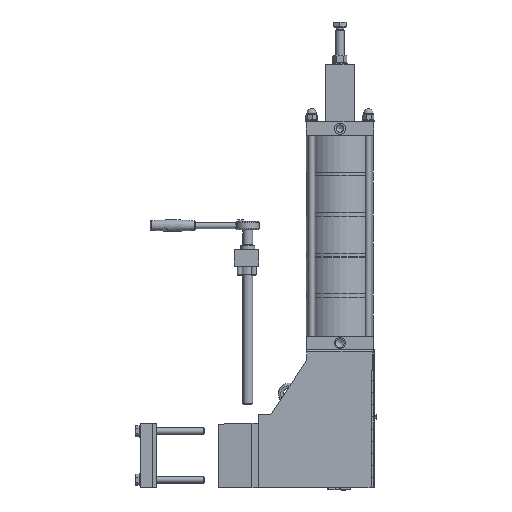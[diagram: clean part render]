
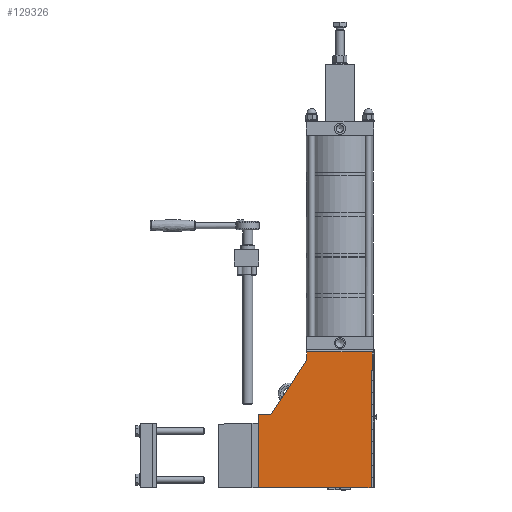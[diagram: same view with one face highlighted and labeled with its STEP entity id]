
A CAD part, left-side view. The second image highlights one B-rep face of the part: STEP entity #129326.
In plain terms, the highlighted planar face has unit normal (-1, 0, 0).
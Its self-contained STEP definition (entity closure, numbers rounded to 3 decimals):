
#18690=LINE('',#221501,#29620);
#18712=LINE('',#221550,#29642);
#18718=LINE('',#221560,#29648);
#18736=LINE('',#221613,#29666);
#18785=LINE('',#221801,#29715);
#18788=LINE('',#221807,#29718);
#18802=LINE('',#221843,#29732);
#18826=LINE('',#221937,#29756);
#18827=LINE('',#221939,#29757);
#29620=VECTOR('',#153052,10.);
#29642=VECTOR('',#153084,10.);
#29648=VECTOR('',#153092,10.);
#29666=VECTOR('',#153144,10.);
#29715=VECTOR('',#153371,10.);
#29718=VECTOR('',#153376,10.);
#29732=VECTOR('',#153410,10.);
#29756=VECTOR('',#153524,10.);
#29757=VECTOR('',#153527,10.);
#37481=FACE_OUTER_BOUND('',#44781,.T.);
#44781=EDGE_LOOP('',(#108372,#108373,#108374,#108375,#108376,#108377,#108378,
#108379,#108380));
#57541=VERTEX_POINT('',#221498);
#57542=VERTEX_POINT('',#221500);
#57563=VERTEX_POINT('',#221547);
#57564=VERTEX_POINT('',#221549);
#57567=VERTEX_POINT('',#221559);
#57585=VERTEX_POINT('',#221610);
#57635=VERTEX_POINT('',#221799);
#57637=VERTEX_POINT('',#221805);
#57674=VERTEX_POINT('',#221935);
#74670=EDGE_CURVE('',#57541,#57542,#18690,.T.);
#74696=EDGE_CURVE('',#57563,#57564,#18712,.T.);
#74702=EDGE_CURVE('',#57564,#57567,#18718,.T.);
#74730=EDGE_CURVE('',#57567,#57585,#18736,.T.);
#74818=EDGE_CURVE('',#57541,#57635,#18785,.T.);
#74821=EDGE_CURVE('',#57635,#57637,#18788,.T.);
#74839=EDGE_CURVE('',#57542,#57563,#18802,.T.);
#74881=EDGE_CURVE('',#57585,#57674,#18826,.T.);
#74882=EDGE_CURVE('',#57674,#57637,#18827,.T.);
#108372=ORIENTED_EDGE('',*,*,#74882,.F.);
#108373=ORIENTED_EDGE('',*,*,#74881,.F.);
#108374=ORIENTED_EDGE('',*,*,#74730,.F.);
#108375=ORIENTED_EDGE('',*,*,#74702,.F.);
#108376=ORIENTED_EDGE('',*,*,#74696,.F.);
#108377=ORIENTED_EDGE('',*,*,#74839,.F.);
#108378=ORIENTED_EDGE('',*,*,#74670,.F.);
#108379=ORIENTED_EDGE('',*,*,#74818,.T.);
#108380=ORIENTED_EDGE('',*,*,#74821,.T.);
#116529=PLANE('',#134522);
#129326=ADVANCED_FACE('',(#37481),#116529,.F.);
#134522=AXIS2_PLACEMENT_3D('',#221938,#153525,#153526);
#153052=DIRECTION('',(0.,1.,0.));
#153084=DIRECTION('',(0.,-1.,0.));
#153092=DIRECTION('',(0.,-0.545,0.839));
#153144=DIRECTION('',(0.,0.,1.));
#153371=DIRECTION('',(0.,0.,1.));
#153376=DIRECTION('',(0.,-1.,0.));
#153410=DIRECTION('',(0.,0.,1.));
#153524=DIRECTION('',(0.,-1.,0.));
#153525=DIRECTION('center_axis',(1.,0.,0.));
#153526=DIRECTION('ref_axis',(0.,1.,0.));
#153527=DIRECTION('',(0.,0.,-1.));
#221498=CARTESIAN_POINT('',(-89.,-276.5,0.));
#221500=CARTESIAN_POINT('',(-89.,0.,0.));
#221501=CARTESIAN_POINT('',(-89.,0.,0.));
#221547=CARTESIAN_POINT('',(-89.,0.,180.));
#221549=CARTESIAN_POINT('',(-89.,-30.,180.));
#221550=CARTESIAN_POINT('',(-89.,-30.,180.));
#221559=CARTESIAN_POINT('',(-89.,-117.67,315.));
#221560=CARTESIAN_POINT('',(-89.,-117.67,315.));
#221610=CARTESIAN_POINT('',(-89.,-117.67,335.));
#221613=CARTESIAN_POINT('',(-89.,-117.67,340.));
#221799=CARTESIAN_POINT('',(-89.,-276.5,290.));
#221801=CARTESIAN_POINT('',(-89.,-276.5,222.525));
#221805=CARTESIAN_POINT('',(-89.,-280.,290.));
#221807=CARTESIAN_POINT('',(-89.,-219.087,290.));
#221843=CARTESIAN_POINT('',(-89.,0.,180.));
#221935=CARTESIAN_POINT('',(-89.,-280.,335.));
#221937=CARTESIAN_POINT('',(-89.,-219.087,335.));
#221938=CARTESIAN_POINT('Origin',(-89.,-155.675,155.049));
#221939=CARTESIAN_POINT('',(-89.,-280.,77.525));
